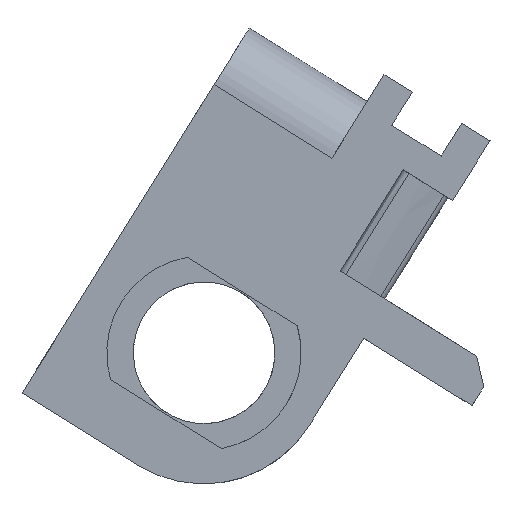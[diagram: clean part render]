
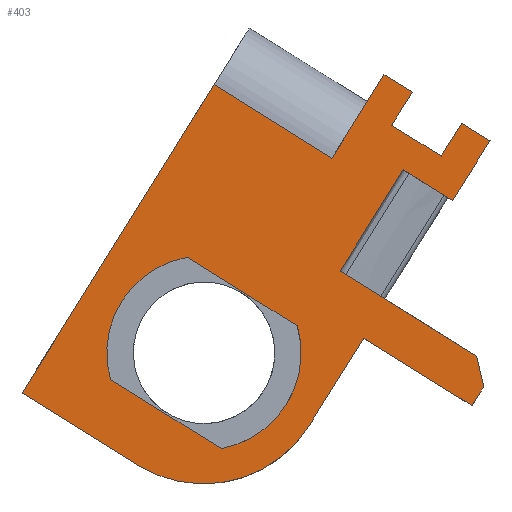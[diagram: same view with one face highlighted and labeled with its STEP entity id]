
A CAD part, front view. The second image highlights one B-rep face of the part: STEP entity #403.
In plain terms, the highlighted planar face has unit normal (0, -1, 0).
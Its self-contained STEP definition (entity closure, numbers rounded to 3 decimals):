
#166=AXIS2_PLACEMENT_3D('Circle Axis2P3D',#164,#165,$) ;
#173=AXIS2_PLACEMENT_3D('Circle Axis2P3D',#171,#172,$) ;
#228=AXIS2_PLACEMENT_3D('Circle Axis2P3D',#226,#227,$) ;
#248=AXIS2_PLACEMENT_3D('Plane Axis2P3D',#245,#246,#247) ;
#261=AXIS2_PLACEMENT_3D('Circle Axis2P3D',#259,#260,$) ;
#121=CARTESIAN_POINT('Control Point',(-175.866,-1324.83,343.066)) ;
#122=CARTESIAN_POINT('Control Point',(-179.825,-1324.83,345.534)) ;
#123=CARTESIAN_POINT('Vertex',(-175.866,-1324.83,343.066)) ;
#125=CARTESIAN_POINT('Vertex',(-179.825,-1324.83,345.534)) ;
#161=CARTESIAN_POINT('Vertex',(-178.599,-1324.83,338.642)) ;
#164=CARTESIAN_POINT('Axis2P3D Location',(-179.226,-1324.83,342.086)) ;
#168=CARTESIAN_POINT('Vertex',(-176.256,-1324.83,340.234)) ;
#171=CARTESIAN_POINT('Axis2P3D Location',(-179.226,-1324.83,342.086)) ;
#200=CARTESIAN_POINT('Vertex',(-182.593,-1324.83,341.132)) ;
#204=CARTESIAN_POINT('Control Point',(-182.593,-1324.83,341.132)) ;
#205=CARTESIAN_POINT('Control Point',(-178.599,-1324.83,338.642)) ;
#226=CARTESIAN_POINT('Axis2P3D Location',(-179.226,-1324.83,342.086)) ;
#245=CARTESIAN_POINT('Axis2P3D Location',(-172.751,-1324.83,339.24)) ;
#250=CARTESIAN_POINT('Line Origine',(-183.701,-1324.83,339.348)) ;
#254=CARTESIAN_POINT('Vertex',(-181.622,-1324.83,338.052)) ;
#256=CARTESIAN_POINT('Vertex',(-185.781,-1324.83,340.644)) ;
#259=CARTESIAN_POINT('Axis2P3D Location',(-179.242,-1324.83,341.871)) ;
#263=CARTESIAN_POINT('Vertex',(-175.423,-1324.83,339.491)) ;
#266=CARTESIAN_POINT('Line Origine',(-174.447,-1324.83,341.057)) ;
#270=CARTESIAN_POINT('Vertex',(-173.471,-1324.83,342.623)) ;
#273=CARTESIAN_POINT('Line Origine',(-171.519,-1324.83,341.407)) ;
#277=CARTESIAN_POINT('Vertex',(-169.567,-1324.83,340.19)) ;
#280=CARTESIAN_POINT('Line Origine',(-169.355,-1324.83,340.529)) ;
#284=CARTESIAN_POINT('Vertex',(-169.144,-1324.83,340.869)) ;
#287=CARTESIAN_POINT('Line Origine',(-169.272,-1324.83,341.42)) ;
#291=CARTESIAN_POINT('Vertex',(-169.399,-1324.83,341.971)) ;
#294=CARTESIAN_POINT('Line Origine',(-171.861,-1324.83,343.505)) ;
#298=CARTESIAN_POINT('Vertex',(-174.322,-1324.83,345.039)) ;
#301=CARTESIAN_POINT('Line Origine',(-173.185,-1324.83,346.863)) ;
#305=CARTESIAN_POINT('Vertex',(-172.047,-1324.83,348.688)) ;
#308=CARTESIAN_POINT('Line Origine',(-171.156,-1324.83,348.132)) ;
#312=CARTESIAN_POINT('Vertex',(-170.265,-1324.83,347.577)) ;
#315=CARTESIAN_POINT('Line Origine',(-169.592,-1324.83,348.656)) ;
#319=CARTESIAN_POINT('Vertex',(-168.92,-1324.83,349.736)) ;
#322=CARTESIAN_POINT('Line Origine',(-169.429,-1324.83,350.053)) ;
#326=CARTESIAN_POINT('Vertex',(-169.938,-1324.83,350.371)) ;
#329=CARTESIAN_POINT('Line Origine',(-170.308,-1324.83,349.776)) ;
#333=CARTESIAN_POINT('Vertex',(-170.679,-1324.83,349.182)) ;
#336=CARTESIAN_POINT('Line Origine',(-171.57,-1324.83,349.738)) ;
#340=CARTESIAN_POINT('Vertex',(-172.461,-1324.83,350.293)) ;
#343=CARTESIAN_POINT('Line Origine',(-172.091,-1324.83,350.887)) ;
#347=CARTESIAN_POINT('Vertex',(-171.72,-1324.83,351.481)) ;
#350=CARTESIAN_POINT('Line Origine',(-172.229,-1324.83,351.799)) ;
#354=CARTESIAN_POINT('Vertex',(-172.739,-1324.83,352.116)) ;
#357=CARTESIAN_POINT('Line Origine',(-173.676,-1324.83,350.612)) ;
#361=CARTESIAN_POINT('Vertex',(-174.613,-1324.83,349.109)) ;
#364=CARTESIAN_POINT('Line Origine',(-176.735,-1324.83,350.431)) ;
#368=CARTESIAN_POINT('Vertex',(-178.856,-1324.83,351.753)) ;
#371=CARTESIAN_POINT('Line Origine',(-182.319,-1324.83,346.199)) ;
#165=DIRECTION('Axis2P3D Direction',(0.,1.,0.)) ;
#172=DIRECTION('Axis2P3D Direction',(0.,1.,0.)) ;
#227=DIRECTION('Axis2P3D Direction',(0.,1.,0.)) ;
#246=DIRECTION('Axis2P3D Direction',(0.,-1.,0.)) ;
#247=DIRECTION('Axis2P3D XDirection',(-0.529,0.,-0.849)) ;
#251=DIRECTION('Vector Direction',(-0.849,0.,0.529)) ;
#260=DIRECTION('Axis2P3D Direction',(0.,-1.,0.)) ;
#267=DIRECTION('Vector Direction',(-0.529,0.,-0.849)) ;
#274=DIRECTION('Vector Direction',(0.849,0.,-0.529)) ;
#281=DIRECTION('Vector Direction',(0.529,0.,0.849)) ;
#288=DIRECTION('Vector Direction',(0.226,0.,-0.974)) ;
#295=DIRECTION('Vector Direction',(-0.849,0.,0.529)) ;
#302=DIRECTION('Vector Direction',(0.529,0.,0.849)) ;
#309=DIRECTION('Vector Direction',(0.849,0.,-0.529)) ;
#316=DIRECTION('Vector Direction',(-0.529,0.,-0.849)) ;
#323=DIRECTION('Vector Direction',(0.849,0.,-0.529)) ;
#330=DIRECTION('Vector Direction',(0.529,0.,0.849)) ;
#337=DIRECTION('Vector Direction',(0.849,0.,-0.529)) ;
#344=DIRECTION('Vector Direction',(0.529,0.,0.849)) ;
#351=DIRECTION('Vector Direction',(0.849,0.,-0.529)) ;
#358=DIRECTION('Vector Direction',(0.529,0.,0.849)) ;
#365=DIRECTION('Vector Direction',(-0.849,0.,0.529)) ;
#372=DIRECTION('Vector Direction',(-0.529,0.,-0.849)) ;
#252=VECTOR('Line Direction',#251,1.) ;
#268=VECTOR('Line Direction',#267,1.) ;
#275=VECTOR('Line Direction',#274,1.) ;
#282=VECTOR('Line Direction',#281,1.) ;
#289=VECTOR('Line Direction',#288,1.) ;
#296=VECTOR('Line Direction',#295,1.) ;
#303=VECTOR('Line Direction',#302,1.) ;
#310=VECTOR('Line Direction',#309,1.) ;
#317=VECTOR('Line Direction',#316,1.) ;
#324=VECTOR('Line Direction',#323,1.) ;
#331=VECTOR('Line Direction',#330,1.) ;
#338=VECTOR('Line Direction',#337,1.) ;
#345=VECTOR('Line Direction',#344,1.) ;
#352=VECTOR('Line Direction',#351,1.) ;
#359=VECTOR('Line Direction',#358,1.) ;
#366=VECTOR('Line Direction',#365,1.) ;
#373=VECTOR('Line Direction',#372,1.) ;
#377=ORIENTED_EDGE('',*,*,#258,.F.) ;
#378=ORIENTED_EDGE('',*,*,#265,.T.) ;
#379=ORIENTED_EDGE('',*,*,#272,.F.) ;
#380=ORIENTED_EDGE('',*,*,#279,.T.) ;
#381=ORIENTED_EDGE('',*,*,#286,.T.) ;
#382=ORIENTED_EDGE('',*,*,#293,.F.) ;
#383=ORIENTED_EDGE('',*,*,#300,.T.) ;
#384=ORIENTED_EDGE('',*,*,#307,.T.) ;
#385=ORIENTED_EDGE('',*,*,#314,.T.) ;
#386=ORIENTED_EDGE('',*,*,#321,.F.) ;
#387=ORIENTED_EDGE('',*,*,#328,.F.) ;
#388=ORIENTED_EDGE('',*,*,#335,.F.) ;
#389=ORIENTED_EDGE('',*,*,#342,.F.) ;
#390=ORIENTED_EDGE('',*,*,#349,.T.) ;
#391=ORIENTED_EDGE('',*,*,#356,.F.) ;
#392=ORIENTED_EDGE('',*,*,#363,.F.) ;
#393=ORIENTED_EDGE('',*,*,#370,.T.) ;
#394=ORIENTED_EDGE('',*,*,#375,.T.) ;
#397=ORIENTED_EDGE('',*,*,#175,.F.) ;
#398=ORIENTED_EDGE('',*,*,#170,.F.) ;
#399=ORIENTED_EDGE('',*,*,#206,.F.) ;
#400=ORIENTED_EDGE('',*,*,#230,.T.) ;
#401=ORIENTED_EDGE('',*,*,#127,.F.) ;
#402=FACE_BOUND('',#396,.T.) ;
#403=ADVANCED_FACE('BREP WITH VOIDS',(#395,#402),#249,.T.) ;
#120=B_SPLINE_CURVE_WITH_KNOTS('',1,(#121,#122),.UNSPECIFIED.,.F.,.U.,(2,2),(-2.333,2.333),.UNSPECIFIED.) ;
#203=B_SPLINE_CURVE_WITH_KNOTS('',1,(#204,#205),.UNSPECIFIED.,.F.,.U.,(2,2),(-2.353,2.353),.UNSPECIFIED.) ;
#167=CIRCLE('generated circle',#166,3.5) ;
#174=CIRCLE('generated circle',#173,3.5) ;
#229=CIRCLE('generated circle',#228,3.5) ;
#262=CIRCLE('generated circle',#261,4.5) ;
#127=EDGE_CURVE('',#124,#126,#120,.T.) ;
#170=EDGE_CURVE('',#162,#169,#167,.F.) ;
#175=EDGE_CURVE('',#169,#124,#174,.F.) ;
#206=EDGE_CURVE('',#201,#162,#203,.T.) ;
#230=EDGE_CURVE('',#201,#126,#229,.T.) ;
#258=EDGE_CURVE('',#255,#257,#253,.T.) ;
#265=EDGE_CURVE('',#255,#264,#262,.T.) ;
#272=EDGE_CURVE('',#271,#264,#269,.T.) ;
#279=EDGE_CURVE('',#271,#278,#276,.T.) ;
#286=EDGE_CURVE('',#278,#285,#283,.T.) ;
#293=EDGE_CURVE('',#292,#285,#290,.T.) ;
#300=EDGE_CURVE('',#292,#299,#297,.T.) ;
#307=EDGE_CURVE('',#299,#306,#304,.T.) ;
#314=EDGE_CURVE('',#306,#313,#311,.T.) ;
#321=EDGE_CURVE('',#320,#313,#318,.T.) ;
#328=EDGE_CURVE('',#327,#320,#325,.T.) ;
#335=EDGE_CURVE('',#334,#327,#332,.T.) ;
#342=EDGE_CURVE('',#341,#334,#339,.T.) ;
#349=EDGE_CURVE('',#341,#348,#346,.T.) ;
#356=EDGE_CURVE('',#355,#348,#353,.T.) ;
#363=EDGE_CURVE('',#362,#355,#360,.T.) ;
#370=EDGE_CURVE('',#362,#369,#367,.T.) ;
#375=EDGE_CURVE('',#369,#257,#374,.T.) ;
#376=EDGE_LOOP('',(#377,#378,#379,#380,#381,#382,#383,#384,#385,#386,#387,#388,#389,#390,#391,#392,#393,#394)) ;
#396=EDGE_LOOP('',(#397,#398,#399,#400,#401)) ;
#395=FACE_OUTER_BOUND('',#376,.T.) ;
#253=LINE('Line',#250,#252) ;
#269=LINE('Line',#266,#268) ;
#276=LINE('Line',#273,#275) ;
#283=LINE('Line',#280,#282) ;
#290=LINE('Line',#287,#289) ;
#297=LINE('Line',#294,#296) ;
#304=LINE('Line',#301,#303) ;
#311=LINE('Line',#308,#310) ;
#318=LINE('Line',#315,#317) ;
#325=LINE('Line',#322,#324) ;
#332=LINE('Line',#329,#331) ;
#339=LINE('Line',#336,#338) ;
#346=LINE('Line',#343,#345) ;
#353=LINE('Line',#350,#352) ;
#360=LINE('Line',#357,#359) ;
#367=LINE('Line',#364,#366) ;
#374=LINE('Line',#371,#373) ;
#249=PLANE('',#248) ;
#124=VERTEX_POINT('',#123) ;
#126=VERTEX_POINT('',#125) ;
#162=VERTEX_POINT('',#161) ;
#169=VERTEX_POINT('',#168) ;
#201=VERTEX_POINT('',#200) ;
#255=VERTEX_POINT('',#254) ;
#257=VERTEX_POINT('',#256) ;
#264=VERTEX_POINT('',#263) ;
#271=VERTEX_POINT('',#270) ;
#278=VERTEX_POINT('',#277) ;
#285=VERTEX_POINT('',#284) ;
#292=VERTEX_POINT('',#291) ;
#299=VERTEX_POINT('',#298) ;
#306=VERTEX_POINT('',#305) ;
#313=VERTEX_POINT('',#312) ;
#320=VERTEX_POINT('',#319) ;
#327=VERTEX_POINT('',#326) ;
#334=VERTEX_POINT('',#333) ;
#341=VERTEX_POINT('',#340) ;
#348=VERTEX_POINT('',#347) ;
#355=VERTEX_POINT('',#354) ;
#362=VERTEX_POINT('',#361) ;
#369=VERTEX_POINT('',#368) ;
